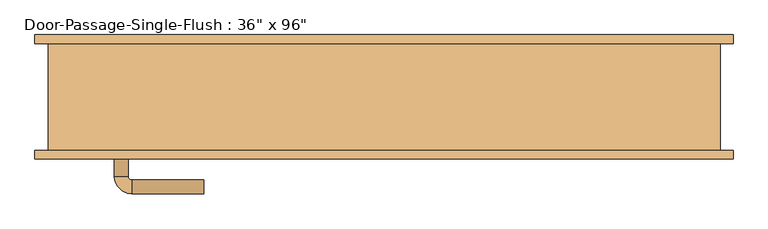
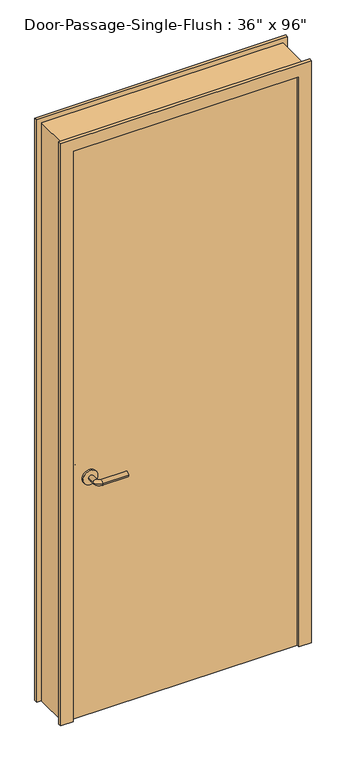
"""IFC4 building model written with IfcOpenShell, lengths in millimetres: door geometry."""

from ifc_helpers import new_model, si_unit, point, frame, frame_2d, origin, origin_with_axes, place, context, project, spatial, polyline, circle_curve, ellipse_curve, trimmed, segment, composite_curve, outline, extrude, faceted_brep, source, transform, mapped, element, save
from ifc_brep_helpers import plane_surface, cylinder_surface, revolved_surface, advanced_brep


def door_b23f3af8(model_context):
    return source(origin(), model_context, "Body", "SolidModel", [
        advanced_brep(
        [(-392.190625, -31.6875, 1016.0), (-372.190625, -31.6875, 1016.0), (-392.190625, -1.6875, 1016.0), (-372.190625, -1.6875, 1016.0), (-367.190625, 3.3125, 1016.0), (-367.190625, 23.3125, 1016.0), (-262.190625, 23.3125, 1016.0), (-262.190625, 3.3125, 1016.0)],
        [
            (0, 1, circle_curve(frame((-382.190625, -31.6875, 1016.0), z_axis=(0.0, -1.0, 0.0), x_axis=(1.0, 0.0, 0.0)), 10.0)),
            (1, 0, circle_curve(frame((-382.190625, -31.6875, 1016.0), z_axis=(0.0, -1.0, 0.0), x_axis=(1.0, 0.0, 0.0)), 10.0)),
            (0, 2),
            (2, 3, circle_curve(frame((-382.190625, -1.6875, 1016.0), z_axis=(0.0, -1.0, 0.0), x_axis=(1.0, 0.0, 0.0)), 10.0)),
            (3, 1),
            (3, 2, circle_curve(frame((-382.190625, -1.6875, 1016.0), z_axis=(0.0, -1.0, 0.0), x_axis=(1.0, 0.0, 0.0)), 10.0)),
            (4, 3, circle_curve(frame((-367.190625, -1.6875, 1016.0), z_axis=(0.0, 0.0, 1.0), x_axis=(-1.0, 0.0, 0.0)), 5.0)),
            (2, 5, circle_curve(frame((-367.190625, -1.6875, 1016.0), z_axis=(0.0, 0.0, -1.0), x_axis=(-1.0, 0.0, 0.0)), 25.0)),
            (5, 4, circle_curve(frame((-367.190625, 13.3125, 1016.0), z_axis=(-1.0, 0.0, 0.0), x_axis=(0.0, -1.0, 0.0)), 10.0)),
            (4, 5, circle_curve(frame((-367.190625, 13.3125, 1016.0), z_axis=(-1.0, 0.0, 0.0), x_axis=(0.0, -1.0, 0.0)), 10.0)),
            (6, 7, circle_curve(frame((-262.190625, 13.3125, 1016.0), z_axis=(1.0, 0.0, 0.0), x_axis=(0.0, -1.0, 0.0)), 10.0)),
            (7, 6, circle_curve(frame((-262.190625, 13.3125, 1016.0), z_axis=(1.0, 0.0, 0.0), x_axis=(0.0, -1.0, 0.0)), 10.0)),
            (5, 6),
            (7, 4),
        ],
        [
            plane_surface(frame((-382.190625, -31.6875, 1016.0), z_axis=(0.0, -1.0, 0.0), x_axis=(0.0, 0.0, 1.0))),
            cylinder_surface(frame((-382.190625, -31.6875, 1016.0), z_axis=(0.0, -1.0, 0.0), x_axis=(1.0, 0.0, 0.0)), 10.0),
            revolved_surface(trimmed(ellipse_curve(frame((-382.190625, -1.6875, 1016.0), z_axis=(0.0, -1.0, 0.0), x_axis=(1.0, 0.0, 0.0)), 10.0, 10.0), [point((-392.190625, -1.6875, 1016.0))], [point((-372.190625, -1.6875, 1016.0))], True, "CARTESIAN"), (-367.190625, -1.6875, 1016.0), (0.0, 0.0, -1.0)),
            revolved_surface(trimmed(ellipse_curve(frame((-382.190625, -1.6875, 1016.0), z_axis=(0.0, -1.0, 0.0), x_axis=(1.0, 0.0, 0.0)), 10.0, 10.0), [point((-372.190625, -1.6875, 1016.0))], [point((-392.190625, -1.6875, 1016.0))], True, "CARTESIAN"), (-367.190625, -1.6875, 1016.0), (0.0, 0.0, -1.0)),
            plane_surface(frame((-262.190625, 13.3125, 1016.0), z_axis=(1.0, 0.0, 0.0), x_axis=(0.0, 0.0, 1.0))),
            cylinder_surface(frame((-367.190625, 13.3125, 1016.0), z_axis=(-1.0, 0.0, 0.0), x_axis=(0.0, -1.0, 0.0)), 10.0),
        ],
        [
            (0, [[1, 2]]),
            (1, [[-1, 3, 4, 5]]),
            (1, [[-2, -5, 6, -3]]),
            (2, [[7, -4, 8, 9]]),
            (3, [[-8, -6, -7, 10]]),
            (4, [[11, 12]]),
            (5, [[-9, 13, -12, 14]]),
            (5, [[-10, -14, -11, -13]]),
        ],
    ),
        extrude(outline(composite_curve([segment(trimmed(circle_curve(frame_2d((1016.0, -384.690625)), 30.0), [point((1016.0, -414.690625))], [point((1016.0, -354.690625))], False, "CARTESIAN"), True, "CONTINUOUS"), segment(trimmed(circle_curve(frame_2d((1016.0, -384.690625)), 30.0), [point((1016.0, -354.690625))], [point((1016.0, -414.690625))], False, "CARTESIAN"), True, "CONTINUOUS")], self_intersect=False)), frame((0.0, -39.6875, 0.0), z_axis=(0.0, 1.0, 0.0), x_axis=(0.0, 0.0, 1.0)), (0.0, 0.0, 1.0), 8.0),
        advanced_brep(
        [(-392.190625, -92.1375, 1016.0), (-372.190625, -92.1375, 1016.0), (-372.190625, -122.1375, 1016.0), (-392.190625, -122.1375, 1016.0), (-367.190625, -127.1375, 1016.0), (-367.190625, -147.1375, 1016.0), (-262.190625, -147.1375, 1016.0), (-262.190625, -127.1375, 1016.0)],
        [
            (0, 1, circle_curve(frame((-382.190625, -92.1375, 1016.0), z_axis=(0.0, 1.0, 0.0), x_axis=(1.0, 0.0, 0.0)), 10.0)),
            (1, 0, circle_curve(frame((-382.190625, -92.1375, 1016.0), z_axis=(0.0, 1.0, 0.0), x_axis=(1.0, 0.0, 0.0)), 10.0)),
            (1, 2),
            (2, 3, circle_curve(frame((-382.190625, -122.1375, 1016.0), z_axis=(0.0, 1.0, 0.0), x_axis=(1.0, 0.0, 0.0)), 10.0)),
            (3, 0),
            (3, 2, circle_curve(frame((-382.190625, -122.1375, 1016.0), z_axis=(0.0, 1.0, 0.0), x_axis=(1.0, 0.0, 0.0)), 10.0)),
            (4, 5, circle_curve(frame((-367.190625, -137.1375, 1016.0), z_axis=(-1.0, 0.0, 0.0), x_axis=(0.0, 1.0, 0.0)), 10.0)),
            (5, 3, circle_curve(frame((-367.190625, -122.1375, 1016.0), z_axis=(0.0, 0.0, -1.0), x_axis=(-1.0, 0.0, 0.0)), 25.0)),
            (2, 4, circle_curve(frame((-367.190625, -122.1375, 1016.0), z_axis=(0.0, 0.0, 1.0), x_axis=(-1.0, 0.0, 0.0)), 5.0)),
            (5, 4, circle_curve(frame((-367.190625, -137.1375, 1016.0), z_axis=(-1.0, 0.0, 0.0), x_axis=(0.0, 1.0, 0.0)), 10.0)),
            (6, 7, circle_curve(frame((-262.190625, -137.1375, 1016.0), z_axis=(1.0, 0.0, 0.0), x_axis=(0.0, 1.0, 0.0)), 10.0)),
            (7, 6, circle_curve(frame((-262.190625, -137.1375, 1016.0), z_axis=(1.0, 0.0, 0.0), x_axis=(0.0, 1.0, 0.0)), 10.0)),
            (4, 7),
            (6, 5),
        ],
        [
            plane_surface(frame((-382.190625, -92.1375, 1016.0), z_axis=(0.0, 1.0, 0.0), x_axis=(0.0, 0.0, 1.0))),
            cylinder_surface(frame((-382.190625, -92.1375, 1016.0), z_axis=(0.0, 1.0, 0.0), x_axis=(1.0, 0.0, 0.0)), 10.0),
            revolved_surface(trimmed(ellipse_curve(frame((-382.190625, -122.1375, 1016.0), z_axis=(0.0, -1.0, 0.0), x_axis=(1.0, 0.0, 0.0)), 10.0, 10.0), [point((-392.190625, -122.1375, 1016.0))], [point((-372.190625, -122.1375, 1016.0))], True, "CARTESIAN"), (-367.190625, -122.1375, 1016.0), (0.0, 0.0, -1.0)),
            revolved_surface(trimmed(ellipse_curve(frame((-382.190625, -122.1375, 1016.0), z_axis=(0.0, -1.0, 0.0), x_axis=(1.0, 0.0, 0.0)), 10.0, 10.0), [point((-372.190625, -122.1375, 1016.0))], [point((-392.190625, -122.1375, 1016.0))], True, "CARTESIAN"), (-367.190625, -122.1375, 1016.0), (0.0, 0.0, -1.0)),
            plane_surface(frame((-262.190625, -137.1375, 1016.0), z_axis=(1.0, 0.0, 0.0), x_axis=(0.0, 0.0, 1.0))),
            cylinder_surface(frame((-367.190625, -137.1375, 1016.0), z_axis=(-1.0, 0.0, 0.0), x_axis=(0.0, 1.0, 0.0)), 10.0),
        ],
        [
            (0, [[1, 2]]),
            (1, [[3, 4, 5, -2]]),
            (1, [[-5, 6, -3, -1]]),
            (2, [[7, 8, -4, 9]]),
            (3, [[10, -9, -6, -8]]),
            (4, [[11, 12]]),
            (5, [[13, -11, 14, -7]]),
            (5, [[-14, -12, -13, -10]]),
        ],
    ),
        extrude(outline(composite_curve([segment(trimmed(circle_curve(frame_2d((1016.0, -384.690625)), 30.0), [point((1016.0, -414.690625))], [point((1016.0, -354.690625))], False, "CARTESIAN"), True, "CONTINUOUS"), segment(trimmed(circle_curve(frame_2d((1016.0, -384.690625)), 30.0), [point((1016.0, -354.690625))], [point((1016.0, -414.690625))], False, "CARTESIAN"), True, "CONTINUOUS")], self_intersect=False)), frame((0.0, -92.1375, 0.0), z_axis=(0.0, 1.0, 0.0), x_axis=(0.0, 0.0, 1.0)), (0.0, 0.0, 1.0), 8.0),
        faceted_brep([(457.2, -96.8375, 0.0), (457.2, -34.925, 0.0), (441.325, -34.925, 0.0), (441.325, 3.175, 0.0), (457.2, 3.175, 0.0), (457.2, 84.1375, 0.0), (508.0, 84.1375, 0.0), (508.0, 71.4375, 0.0), (488.95, 71.4375, 0.0), (488.95, -84.1375, 0.0), (508.0, -84.1375, 0.0), (508.0, -96.8375, 0.0), (508.0, -96.8375, 2489.2), (-508.0, -96.8375, 2489.2), (-508.0, -96.8375, 0.0), (-457.2, -96.8375, 0.0), (-457.2, -96.8375, 2438.4), (457.2, -96.8375, 2438.4), (508.0, -84.1375, 2489.2), (488.95, -84.1375, 2470.15), (-488.95, -84.1375, 2470.15), (-488.95, -84.1375, 0.0), (-508.0, -84.1375, 0.0), (-508.0, -84.1375, 2489.2), (488.95, 71.4375, 2470.15), (508.0, 71.4375, 2489.2), (-508.0, 71.4375, 2489.2), (-508.0, 71.4375, 0.0), (-488.95, 71.4375, 0.0), (-488.95, 71.4375, 2470.15), (508.0, 84.1375, 2489.2), (457.2, 84.1375, 2438.4), (-457.2, 84.1375, 2438.4), (-457.2, 84.1375, 0.0), (-508.0, 84.1375, 0.0), (-508.0, 84.1375, 2489.2), (457.2, 3.175, 2438.4), (441.325, 3.175, 2422.525), (-441.325, 3.175, 2422.525), (-441.325, 3.175, 0.0), (-457.2, 3.175, 0.0), (-457.2, 3.175, 2438.4), (441.325, -34.925, 2422.525), (457.2, -34.925, 2438.4), (-457.2, -34.925, 2438.4), (-457.2, -34.925, 0.0), (-441.325, -34.925, 0.0), (-441.325, -34.925, 2422.525)], [[[0, 1, 2, 3, 4, 5, 6, 7, 8, 9, 10, 11]], [[11, 12, 13, 14, 15, 16, 17, 0]], [[10, 18, 12, 11]], [[9, 19, 20, 21, 22, 23, 18, 10]], [[8, 24, 19, 9]], [[7, 25, 26, 27, 28, 29, 24, 8]], [[6, 30, 25, 7]], [[5, 31, 32, 33, 34, 35, 30, 6]], [[4, 36, 31, 5]], [[3, 37, 38, 39, 40, 41, 36, 4]], [[2, 42, 37, 3]], [[1, 43, 44, 45, 46, 47, 42, 2]], [[0, 17, 43, 1]], [[18, 23, 13, 12]], [[24, 29, 20, 19]], [[30, 35, 26, 25]], [[36, 41, 32, 31]], [[42, 47, 38, 37]], [[17, 16, 44, 43]], [[15, 14, 22, 21, 28, 27, 34, 33, 40, 39, 46, 45]], [[23, 22, 14, 13]], [[29, 28, 21, 20]], [[35, 34, 27, 26]], [[41, 40, 33, 32]], [[47, 46, 39, 38]], [[16, 15, 45, 44]]]),
        extrude(outline(polyline([(457.2, -39.6875), (457.2, -84.1375), (-457.2, -84.1375), (-457.2, -39.6875), (457.2, -39.6875)])), origin_with_axes(), (0.0, 0.0, 1.0), 2438.4),
    ])


if __name__ == "__main__":
    model = new_model("IFC4")
    model_context = context("Model", 3, world=origin())
    ifc_project = project(units=[si_unit("LENGTHUNIT", "METRE", prefix="MILLI")], contexts=[model_context])
    site = spatial("IfcSite", under=ifc_project)
    building = spatial("IfcBuilding", under=site)
    placement = place(None, origin())
    door_shape = door_b23f3af8(model_context)
    element("IfcDoor", 1, ObjectType="Door-Passage-Single-Flush : 36\" x 96\"", at=placement, inside=building, context=model_context, shape_type="MappedRepresentation", body=[
        mapped(door_shape, transform((0.0, 0.0, 0.0), x_axis=(1.0, 0.0, 0.0), y_axis=(0.0, 1.0, 0.0), z_axis=(0.0, 0.0, 1.0))),
    ])
    save(model, "model.ifc")
